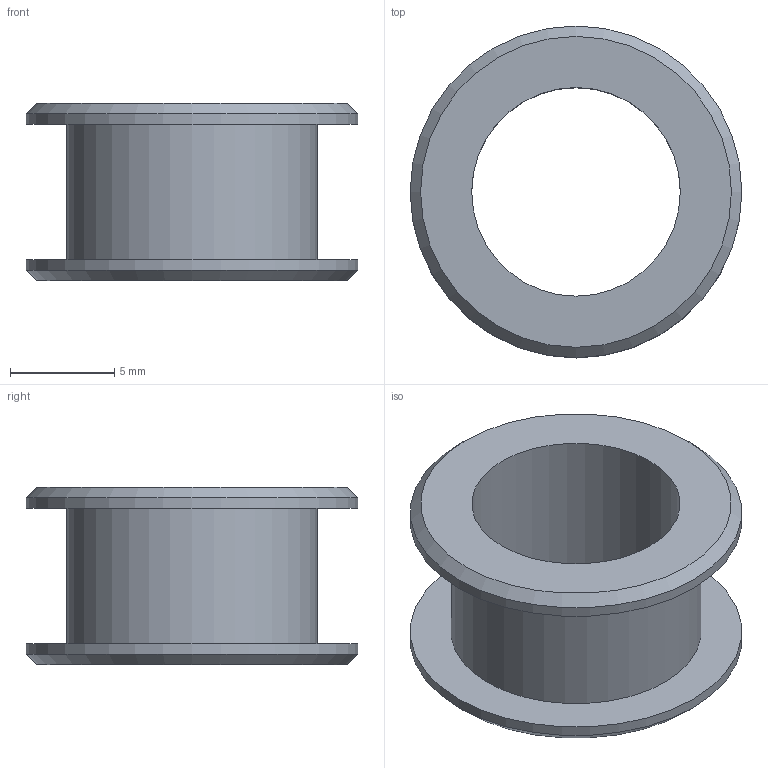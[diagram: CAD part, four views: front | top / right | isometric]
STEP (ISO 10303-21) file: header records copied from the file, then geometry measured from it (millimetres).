
FILE_DESCRIPTION(/* description */ (''),/* implementation_level */ '2;1');
FILE_NAME(/* name */ 'Idler Pulley.step',/* time_stamp */ '2025-04-22T13:03:41+05:30',/* author */ (''),/* organization */ (''),/* preprocessor_version */ 'ST-DEVELOPER v20.1',/* originating_system */ 'Autodesk Translation Framework v14.4.0.0',/* authorisation */ '');
FILE_SCHEMA (('AUTOMOTIVE_DESIGN { 1 0 10303 214 3 1 1 }'));
Length unit declared in the file: millimetre
Products named in the file (1): Idler Pulley
Bounding box: 15.9 x 15.9 x 8.5 mm (x, y, z)
Volume: 452.4 mm3; surface area: 993 mm2
Topology: 1 solids, 1 shells, 10 faces, 16 edges, 10 vertices
Faces by surface type: cylinder 4, plane 4, cone 2
Full cylindrical faces by diameter (mm): 10 x1, 12 x1, 15.9 x2
Entity records: 271 total; most frequent: DIRECTION 48, CARTESIAN_POINT 37, ORIENTED_EDGE 32, AXIS2_PLACEMENT_3D 21, EDGE_CURVE 16, EDGE_LOOP 14, FACE_OUTER_BOUND 10, CIRCLE 10
